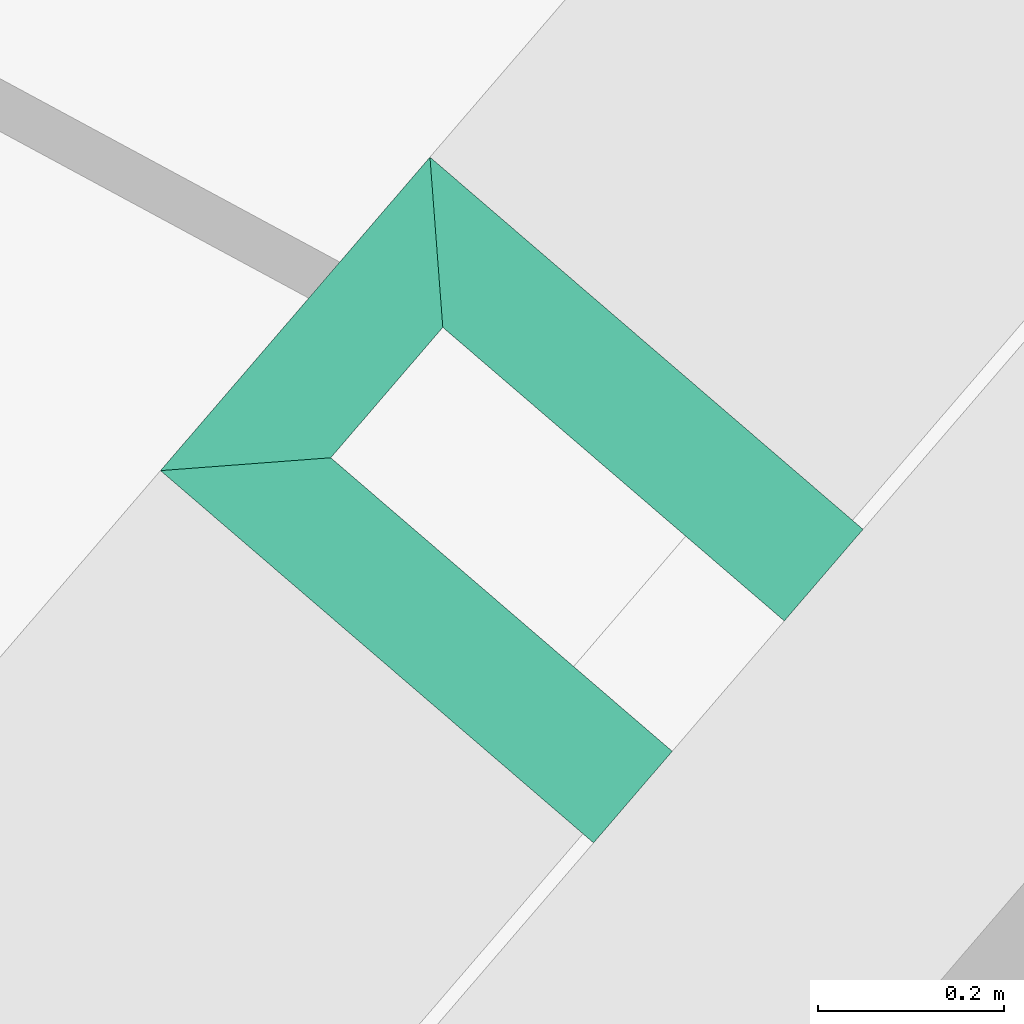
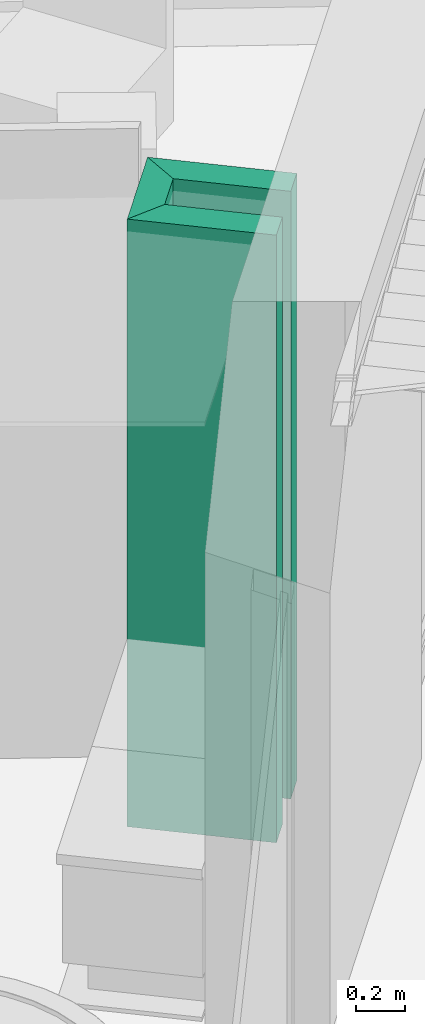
# One storey, part 15 of 41: 3 distribution chamber elements.
"""IFC2X3 building model written with IfcOpenShell, lengths in metres."""

from ifc_helpers import new_model, entity, si_unit, converted_unit, derived_unit, money_unit, direction, frame, origin_with_axes, place, context, subcontext, project, spatial, polyline, outline, composite_profile, extrude, material, material_list, type_object, element, save


model = new_model("IFC2X3")

# Units and contexts
model_context = context("Model", 3, precision=1e-05, world=origin_with_axes(), true_north=direction((0.0, 1.0)))
body_context = subcontext(model_context, "Body", "Model", "MODEL_VIEW")
ifc_project = project(units=[si_unit("LENGTHUNIT", "METRE"), si_unit("AREAUNIT", "SQUARE_METRE"), si_unit("VOLUMEUNIT", "CUBIC_METRE"), converted_unit("PLANEANGLEUNIT", "DEGREE", entity("IfcPlaneAngleMeasure", 0.0174532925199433), si_unit("PLANEANGLEUNIT", "RADIAN"), dimensions=[0, 0, 0, 0, 0, 0, 0]), money_unit("EUR"), converted_unit("TIMEUNIT", "Year", entity("IfcTimeMeasure", 31556926.0), si_unit("TIMEUNIT", "SECOND"), dimensions=[0, 0, 1, 0, 0, 0, 0]), si_unit("MASSUNIT", "GRAM", prefix="KILO"), si_unit("THERMODYNAMICTEMPERATUREUNIT", "DEGREE_CELSIUS"), si_unit("LUMINOUSINTENSITYUNIT", "LUMEN"), si_unit("ENERGYUNIT", "JOULE", prefix="MEGA"), derived_unit("THERMALCONDUCTANCEUNIT", [(si_unit("POWERUNIT", "WATT"), 1), (si_unit("LENGTHUNIT", "METRE"), -1), (si_unit("THERMODYNAMICTEMPERATUREUNIT", "KELVIN"), -1)]), derived_unit("SPECIFICHEATCAPACITYUNIT", [(si_unit("ENERGYUNIT", "JOULE"), 1), (si_unit("MASSUNIT", "GRAM", prefix="KILO"), -1), (si_unit("THERMODYNAMICTEMPERATUREUNIT", "KELVIN"), -1)]), derived_unit("MASSDENSITYUNIT", [(si_unit("MASSUNIT", "GRAM", prefix="KILO"), 1), (si_unit("VOLUMEUNIT", "CUBIC_METRE"), -1)])], contexts=[model_context])

# Site, building, storey
site_placement = place(None, frame((-3.949935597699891, 1.740105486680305, 0.0), z_axis=(0.0, 0.0, 1.0), x_axis=(0.8799804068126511, -0.475009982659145, 0.0)))
site = spatial("IfcSite", under=ifc_project, at=site_placement, Name="Gelände", CompositionType="ELEMENT")
building_placement = place(site_placement, origin_with_axes())
building = spatial("IfcBuilding", under=site, at=building_placement, Name="Gebäude", CompositionType="ELEMENT")
storey_placement = place(building_placement, frame((0.0, 0.0, 4.55), z_axis=(0.0, 0.0, 1.0), x_axis=(1.0, 0.0, 0.0)))
storey = spatial("IfcBuildingStorey", under=building, at=storey_placement, Name="Staffelgeschoss", CompositionType="ELEMENT", Elevation=4.55)

# Distribution chamber elements
ifc_material_1 = material(Name="MW Kalksandstein")
ifc_material_2 = material(Name="Verputz, Gips")
ifc_material_list = material_list([ifc_material_1, ifc_material_2])
distribution_chamber_element_type = type_object("IfcDistributionChamberElementType", Name="WI | KS 11,5+1-seitig Putz 1,5 | 13cm 130", PredefinedType="NOTDEFINED")
distribution_chamber_element_1_placement = place(storey_placement, frame((26.02036336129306, 5.721745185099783, -0.1799999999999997), z_axis=(0.0, 0.0, 1.0), x_axis=(0.9769696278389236, -0.2133784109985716, 0.0)))
element("IfcDistributionChamberElement", 1, at=distribution_chamber_element_1_placement, inside=storey, type_object=distribution_chamber_element_type, material=ifc_material_list, Name="I-Wand020", context=body_context, shape_type="SweptSolid", body=[
    extrude(composite_profile([outline(polyline([(0.1299999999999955, 0.0), (0.6149977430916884, 0.0), (0.6149977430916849, 0.1149999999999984), (0.01499999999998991, 0.1150000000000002), (0.1299999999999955, 0.0)])), outline(polyline([(0.01499999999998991, 0.1150000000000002), (0.6149977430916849, 0.1149999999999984), (0.6149977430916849, 0.1300000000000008), (0.0, 0.129999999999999), (0.01499999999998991, 0.1150000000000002)]))]), origin_with_axes(), (0.0, 0.0, 1.0), 3.005000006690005),
])
distribution_chamber_element_2_placement = place(storey_placement, frame((25.95311129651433, 5.41382638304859, -0.1799999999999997), z_axis=(0.0, 0.0, 1.0), x_axis=(0.2133784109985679, 0.9769696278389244, 0.0)))
element("IfcDistributionChamberElement", 2, at=distribution_chamber_element_2_placement, inside=storey, type_object=distribution_chamber_element_type, material=ifc_material_list, Name="I-Wand021", context=body_context, shape_type="SweptSolid", body=[
    extrude(composite_profile([outline(polyline([(0.1300000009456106, -0.129999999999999), (0.3151774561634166, -0.1300000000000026), (0.4301774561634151, -0.01500000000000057), (0.01500000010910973, -0.01499999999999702), (0.1300000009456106, -0.129999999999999)])), outline(polyline([(0.01500000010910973, -0.01499999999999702), (0.4301774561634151, -0.01500000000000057), (0.4451774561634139, 0.0), (0.0, 0.0), (0.01500000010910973, -0.01499999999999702)]))]), origin_with_axes(), (0.0, 0.0, 1.0), 3.005000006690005),
])
distribution_chamber_element_3_placement = place(storey_placement, frame((26.55394541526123, 5.282599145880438, -0.1799999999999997), z_axis=(0.0, 0.0, 1.0), x_axis=(-0.9769696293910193, 0.2133784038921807, 0.0)))
element("IfcDistributionChamberElement", 3, at=distribution_chamber_element_3_placement, inside=storey, type_object=distribution_chamber_element_type, material=ifc_material_list, Name="I-Wand013", context=body_context, shape_type="SweptSolid", body=[
    extrude(composite_profile([outline(polyline([(0.0, -0.129999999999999), (0.484997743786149, -0.129999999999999), (0.5999977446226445, -0.01499999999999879), (0.0, -0.01500000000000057), (0.0, -0.129999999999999)])), outline(polyline([(0.0, -0.01500000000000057), (0.5999977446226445, -0.01499999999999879), (0.6149977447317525, 0.0), (0.0, 0.0), (0.0, -0.01500000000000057)]))]), origin_with_axes(), (0.0, 0.0, 1.0), 3.005000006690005),
])

save(model, "model.ifc")
